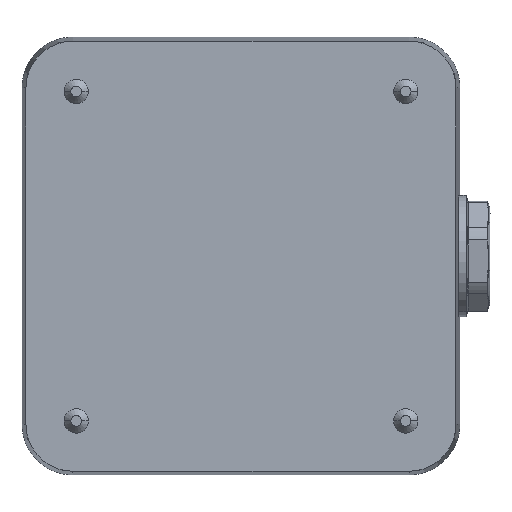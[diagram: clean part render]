
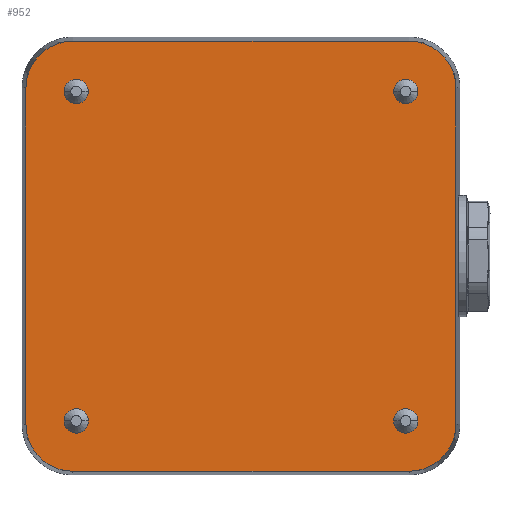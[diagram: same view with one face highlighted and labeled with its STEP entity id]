
A CAD part, front view. The second image highlights one B-rep face of the part: STEP entity #952.
In plain terms, the highlighted planar face has unit normal (0, -1, -0.001).
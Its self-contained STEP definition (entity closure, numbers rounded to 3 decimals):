
#390=CARTESIAN_POINT('',(30.259,-118.06,127.632));
#391=DIRECTION('',(0.,1.,0.001));
#392=DIRECTION('',(-1.,0.,0.));
#393=AXIS2_PLACEMENT_3D('',#390,#391,#392);
#395=CARTESIAN_POINT('',(96.659,-118.06,127.632));
#396=DIRECTION('',(0.,1.,0.001));
#397=DIRECTION('',(0.,-0.001,1.));
#398=AXIS2_PLACEMENT_3D('',#395,#396,#397);
#400=CARTESIAN_POINT('',(96.659,-117.995,61.232));
#401=DIRECTION('',(0.,1.,0.001));
#402=DIRECTION('',(1.,0.,0.));
#403=AXIS2_PLACEMENT_3D('',#400,#401,#402);
#405=CARTESIAN_POINT('',(30.259,-117.995,61.232));
#406=DIRECTION('',(0.,1.,0.001));
#407=DIRECTION('',(0.,0.001,-1.));
#408=AXIS2_PLACEMENT_3D('',#405,#406,#407);
#410=DIRECTION('',(0.,-0.001,1.));
#411=VECTOR('',#410,66.4);
#412=CARTESIAN_POINT('',(21.043,-117.995,61.232));
#413=LINE('',#412,#411);
#422=DIRECTION('',(1.,0.,0.));
#423=VECTOR('',#422,66.4);
#424=CARTESIAN_POINT('',(30.259,-118.07,136.848));
#425=LINE('',#424,#423);
#434=DIRECTION('',(0.,-0.001,1.));
#435=VECTOR('',#434,66.4);
#436=CARTESIAN_POINT('',(105.876,-117.995,61.232));
#437=LINE('',#436,#435);
#446=DIRECTION('',(1.,0.,0.));
#447=VECTOR('',#446,66.4);
#448=CARTESIAN_POINT('',(30.259,-117.986,52.015));
#449=LINE('',#448,#447);
#714=CARTESIAN_POINT('',(21.043,-118.06,127.632));
#715=VERTEX_POINT('',#714);
#716=CARTESIAN_POINT('',(21.043,-117.995,61.232));
#717=VERTEX_POINT('',#716);
#718=CARTESIAN_POINT('',(30.259,-118.07,136.848));
#719=VERTEX_POINT('',#718);
#720=CARTESIAN_POINT('',(30.259,-117.986,52.015));
#721=VERTEX_POINT('',#720);
#722=CARTESIAN_POINT('',(96.659,-117.986,52.015));
#723=VERTEX_POINT('',#722);
#724=CARTESIAN_POINT('',(105.876,-117.995,61.232));
#725=VERTEX_POINT('',#724);
#726=CARTESIAN_POINT('',(105.876,-118.06,127.632));
#727=VERTEX_POINT('',#726);
#728=CARTESIAN_POINT('',(96.659,-118.07,136.848));
#729=VERTEX_POINT('',#728);
#931=CARTESIAN_POINT('',(63.459,-118.028,94.432));
#932=DIRECTION('',(0.,1.,0.001));
#933=DIRECTION('',(1.,0.,0.));
#934=AXIS2_PLACEMENT_3D('',#931,#932,#933);
#935=PLANE('',#934);
#937=ORIENTED_EDGE('',*,*,#936,.T.);
#939=ORIENTED_EDGE('',*,*,#938,.T.);
#941=ORIENTED_EDGE('',*,*,#940,.T.);
#943=ORIENTED_EDGE('',*,*,#942,.F.);
#945=ORIENTED_EDGE('',*,*,#944,.T.);
#947=ORIENTED_EDGE('',*,*,#946,.F.);
#948=ORIENTED_EDGE('',*,*,#924,.T.);
#949=ORIENTED_EDGE('',*,*,#791,.T.);
#950=EDGE_LOOP('',(#937,#939,#941,#943,#945,#947,#948,#949));
#951=FACE_OUTER_BOUND('',#950,.F.);
#952=ADVANCED_FACE('',(#951),#935,.F.);
#394=CIRCLE('',#393,9.216);
#399=CIRCLE('',#398,9.216);
#404=CIRCLE('',#403,9.216);
#409=CIRCLE('',#408,9.216);
#791=EDGE_CURVE('',#717,#715,#413,.T.);
#924=EDGE_CURVE('',#721,#717,#409,.T.);
#936=EDGE_CURVE('',#715,#719,#394,.T.);
#938=EDGE_CURVE('',#719,#729,#425,.T.);
#940=EDGE_CURVE('',#729,#727,#399,.T.);
#942=EDGE_CURVE('',#725,#727,#437,.T.);
#944=EDGE_CURVE('',#725,#723,#404,.T.);
#946=EDGE_CURVE('',#721,#723,#449,.T.);
